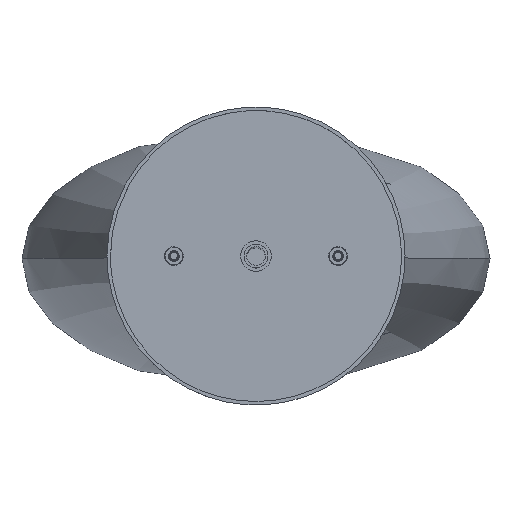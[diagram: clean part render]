
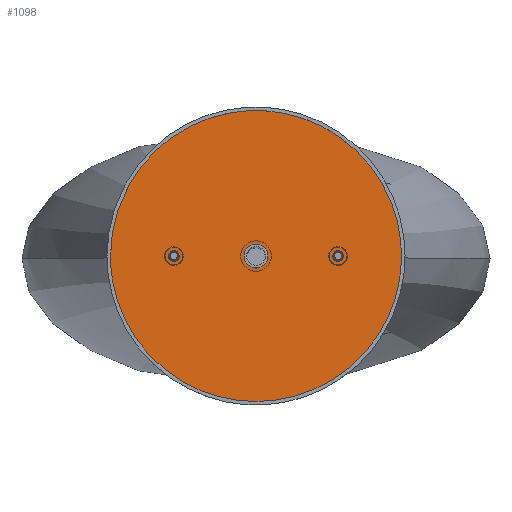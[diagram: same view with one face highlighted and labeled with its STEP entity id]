
A CAD part, top view. The second image highlights one B-rep face of the part: STEP entity #1098.
In plain terms, the highlighted free-form (B-spline) face has degree [1, 2] with [2, 9] control points.
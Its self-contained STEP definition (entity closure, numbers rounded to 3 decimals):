
#59=FACE_BOUND('',#2248,.T.);
#492=(
BOUNDED_CURVE()
B_SPLINE_CURVE(2,(#46581,#46582,#46583,#46584,#46585,#46586,#46587,#46588,
#46589),.UNSPECIFIED.,.T.,.F.)
B_SPLINE_CURVE_WITH_KNOTS((3,2,2,2,3),(0.,99.746,199.491,
299.237,398.982),.UNSPECIFIED.)
CURVE()
GEOMETRIC_REPRESENTATION_ITEM()
RATIONAL_B_SPLINE_CURVE((1.,0.707,1.,0.707,1.,0.707,
1.,0.707,1.))
REPRESENTATION_ITEM('')
);
#493=(
BOUNDED_CURVE()
B_SPLINE_CURVE(2,(#46590,#46591,#46592,#46593,#46594),.UNSPECIFIED.,.F.,
 .F.)
B_SPLINE_CURVE_WITH_KNOTS((3,2,3),(0.,8.011,16.022),
 .UNSPECIFIED.)
CURVE()
GEOMETRIC_REPRESENTATION_ITEM()
RATIONAL_B_SPLINE_CURVE((1.,0.707,1.,0.707,1.))
REPRESENTATION_ITEM('')
);
#494=(
BOUNDED_CURVE()
B_SPLINE_CURVE(2,(#46595,#46596,#46597,#46598,#46599),.UNSPECIFIED.,.F.,
 .F.)
B_SPLINE_CURVE_WITH_KNOTS((3,2,3),(16.022,24.033,32.044),
 .UNSPECIFIED.)
CURVE()
GEOMETRIC_REPRESENTATION_ITEM()
RATIONAL_B_SPLINE_CURVE((1.,0.707,1.,0.707,1.))
REPRESENTATION_ITEM('')
);
#499=(
BOUNDED_CURVE()
B_SPLINE_CURVE(2,(#46627,#46628,#46629,#46630,#46631,#46632,#46633,#46634,
#46635),.UNSPECIFIED.,.T.,.F.)
B_SPLINE_CURVE_WITH_KNOTS((3,2,2,2,3),(-31.574,-23.681,
-15.787,-7.894,0.),.UNSPECIFIED.)
CURVE()
GEOMETRIC_REPRESENTATION_ITEM()
RATIONAL_B_SPLINE_CURVE((1.,0.707,1.,0.707,1.,0.707,
1.,0.707,1.))
REPRESENTATION_ITEM('')
);
#503=(
BOUNDED_CURVE()
B_SPLINE_CURVE(2,(#46658,#46659,#46660,#46661,#46662),.UNSPECIFIED.,.F.,
 .F.)
B_SPLINE_CURVE_WITH_KNOTS((3,2,3),(-31.574,-23.681,
-15.787),.UNSPECIFIED.)
CURVE()
GEOMETRIC_REPRESENTATION_ITEM()
RATIONAL_B_SPLINE_CURVE((1.,0.707,1.,0.707,1.))
REPRESENTATION_ITEM('')
);
#504=(
BOUNDED_CURVE()
B_SPLINE_CURVE(2,(#46663,#46664,#46665,#46666,#46667),.UNSPECIFIED.,.F.,
 .F.)
B_SPLINE_CURVE_WITH_KNOTS((3,2,3),(-15.787,-7.894,
0.),.UNSPECIFIED.)
CURVE()
GEOMETRIC_REPRESENTATION_ITEM()
RATIONAL_B_SPLINE_CURVE((1.,0.707,1.,0.707,1.))
REPRESENTATION_ITEM('')
);
#604=(
BOUNDED_SURFACE()
B_SPLINE_SURFACE(1,2,((#46435,#46436,#46437,#46438,#46439,#46440,#46441,
#46442,#46443),(#46444,#46445,#46446,#46447,#46448,#46449,#46450,#46451,
#46452)),.UNSPECIFIED.,.F.,.F.,.F.)
B_SPLINE_SURFACE_WITH_KNOTS((2,2),(3,2,2,2,3),(78.,140.),(0.,99.746,
199.491,299.237,398.982),.UNSPECIFIED.)
GEOMETRIC_REPRESENTATION_ITEM()
RATIONAL_B_SPLINE_SURFACE(((1.,0.707,1.,0.707,1.,
0.707,1.,0.707,1.),(1.,0.707,1.,0.707,
1.,0.707,1.,0.707,1.)))
REPRESENTATION_ITEM('')
SURFACE()
);
#1098=ADVANCED_FACE('',(#1653,#59),#604,.T.);
#1653=FACE_OUTER_BOUND('',#2247,.T.);
#2247=EDGE_LOOP('',(#4672,#4673,#4674,#4675,#4676,#4677,#4678,#4679,#4680));
#2248=EDGE_LOOP('',(#4681));
#4672=ORIENTED_EDGE('',*,*,#6352,.F.);
#4673=ORIENTED_EDGE('',*,*,#6359,.F.);
#4674=ORIENTED_EDGE('',*,*,#6352,.T.);
#4675=ORIENTED_EDGE('',*,*,#6374,.F.);
#4676=ORIENTED_EDGE('',*,*,#6366,.T.);
#4677=ORIENTED_EDGE('',*,*,#6360,.F.);
#4678=ORIENTED_EDGE('',*,*,#6361,.F.);
#4679=ORIENTED_EDGE('',*,*,#6366,.F.);
#4680=ORIENTED_EDGE('',*,*,#6375,.F.);
#4681=ORIENTED_EDGE('',*,*,#6369,.T.);
#6352=EDGE_CURVE('',#8484,#8493,#7521,.T.);
#6359=EDGE_CURVE('',#8484,#8484,#492,.T.);
#6360=EDGE_CURVE('',#8488,#8489,#493,.T.);
#6361=EDGE_CURVE('',#8489,#8488,#494,.T.);
#6366=EDGE_CURVE('',#8492,#8489,#7526,.T.);
#6369=EDGE_CURVE('',#8494,#8494,#499,.T.);
#6374=EDGE_CURVE('',#8492,#8493,#503,.T.);
#6375=EDGE_CURVE('',#8493,#8492,#504,.T.);
#7521=B_SPLINE_CURVE_WITH_KNOTS('',1,(#46546,#46547),.UNSPECIFIED.,.F.,
 .F.,(2,2),(78.,102.75),.UNSPECIFIED.);
#7526=B_SPLINE_CURVE_WITH_KNOTS('',1,(#46614,#46615),.UNSPECIFIED.,.F.,
 .F.,(2,2),(107.25,134.9),.UNSPECIFIED.);
#8484=VERTEX_POINT('',#46530);
#8488=VERTEX_POINT('',#46534);
#8489=VERTEX_POINT('',#46535);
#8492=VERTEX_POINT('',#46538);
#8493=VERTEX_POINT('',#46539);
#8494=VERTEX_POINT('',#46540);
#46435=CARTESIAN_POINT('',(-62.,0.,-5.011));
#46436=CARTESIAN_POINT('',(-62.,62.,-5.011));
#46437=CARTESIAN_POINT('',(0.,62.,-5.011));
#46438=CARTESIAN_POINT('',(62.,62.,-5.011));
#46439=CARTESIAN_POINT('',(62.,0.,-5.011));
#46440=CARTESIAN_POINT('',(62.,-62.,-5.011));
#46441=CARTESIAN_POINT('',(0.,-62.,-5.011));
#46442=CARTESIAN_POINT('',(-62.,-62.,-5.011));
#46443=CARTESIAN_POINT('',(-62.,0.,-5.011));
#46444=CARTESIAN_POINT('',(0.,0.,-5.011));
#46445=CARTESIAN_POINT('',(0.,0.,-5.011));
#46446=CARTESIAN_POINT('',(0.,0.,-5.011));
#46447=CARTESIAN_POINT('',(0.,0.,-5.011));
#46448=CARTESIAN_POINT('',(0.,0.,-5.011));
#46449=CARTESIAN_POINT('',(0.,0.,-5.011));
#46450=CARTESIAN_POINT('',(0.,0.,-5.011));
#46451=CARTESIAN_POINT('',(0.,0.,-5.011));
#46452=CARTESIAN_POINT('',(0.,0.,-5.011));
#46530=CARTESIAN_POINT('',(-62.,0.,-5.011));
#46534=CARTESIAN_POINT('',(5.1,0.,-5.011));
#46535=CARTESIAN_POINT('',(-5.1,0.,-5.011));
#46538=CARTESIAN_POINT('',(-32.75,0.,-5.011));
#46539=CARTESIAN_POINT('',(-37.25,0.,-5.011));
#46540=CARTESIAN_POINT('',(32.75,0.,-5.011));
#46546=CARTESIAN_POINT('',(-62.,0.,-5.011));
#46547=CARTESIAN_POINT('',(-37.25,0.,-5.011));
#46581=CARTESIAN_POINT('',(-62.,0.,-5.011));
#46582=CARTESIAN_POINT('',(-62.,62.,-5.011));
#46583=CARTESIAN_POINT('',(0.,62.,-5.011));
#46584=CARTESIAN_POINT('',(62.,62.,-5.011));
#46585=CARTESIAN_POINT('',(62.,0.,-5.011));
#46586=CARTESIAN_POINT('',(62.,-62.,-5.011));
#46587=CARTESIAN_POINT('',(0.,-62.,-5.011));
#46588=CARTESIAN_POINT('',(-62.,-62.,-5.011));
#46589=CARTESIAN_POINT('',(-62.,0.,-5.011));
#46590=CARTESIAN_POINT('',(5.1,0.,-5.011));
#46591=CARTESIAN_POINT('',(5.1,5.1,-5.011));
#46592=CARTESIAN_POINT('',(0.,5.1,-5.011));
#46593=CARTESIAN_POINT('',(-5.1,5.1,-5.011));
#46594=CARTESIAN_POINT('',(-5.1,0.,-5.011));
#46595=CARTESIAN_POINT('',(-5.1,0.,-5.011));
#46596=CARTESIAN_POINT('',(-5.1,-5.1,-5.011));
#46597=CARTESIAN_POINT('',(0.,-5.1,-5.011));
#46598=CARTESIAN_POINT('',(5.1,-5.1,-5.011));
#46599=CARTESIAN_POINT('',(5.1,0.,-5.011));
#46614=CARTESIAN_POINT('',(-32.75,0.,-5.011));
#46615=CARTESIAN_POINT('',(-5.1,0.,-5.011));
#46627=CARTESIAN_POINT('',(32.75,0.,-5.011));
#46628=CARTESIAN_POINT('',(32.75,2.25,-5.011));
#46629=CARTESIAN_POINT('',(35.,2.25,-5.011));
#46630=CARTESIAN_POINT('',(37.25,2.25,-5.011));
#46631=CARTESIAN_POINT('',(37.25,0.,-5.011));
#46632=CARTESIAN_POINT('',(37.25,-2.25,-5.011));
#46633=CARTESIAN_POINT('',(35.,-2.25,-5.011));
#46634=CARTESIAN_POINT('',(32.75,-2.25,-5.011));
#46635=CARTESIAN_POINT('',(32.75,0.,-5.011));
#46658=CARTESIAN_POINT('',(-32.75,0.,-5.011));
#46659=CARTESIAN_POINT('',(-32.75,2.25,-5.011));
#46660=CARTESIAN_POINT('',(-35.,2.25,-5.011));
#46661=CARTESIAN_POINT('',(-37.25,2.25,-5.011));
#46662=CARTESIAN_POINT('',(-37.25,0.,-5.011));
#46663=CARTESIAN_POINT('',(-37.25,0.,-5.011));
#46664=CARTESIAN_POINT('',(-37.25,-2.25,-5.011));
#46665=CARTESIAN_POINT('',(-35.,-2.25,-5.011));
#46666=CARTESIAN_POINT('',(-32.75,-2.25,-5.011));
#46667=CARTESIAN_POINT('',(-32.75,0.,-5.011));
